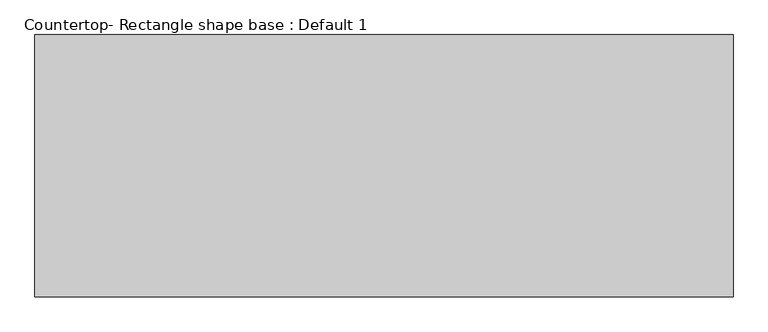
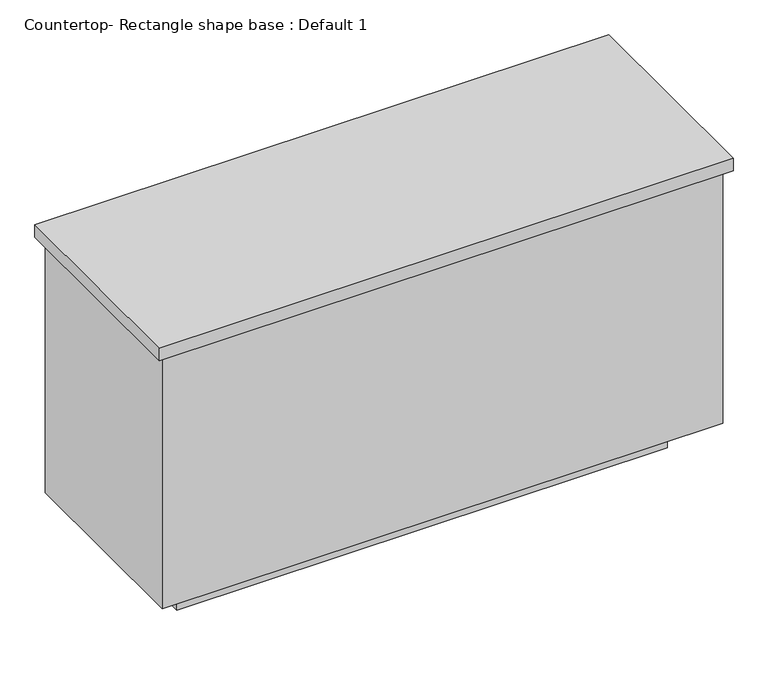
"""IFC4 building model written with IfcOpenShell, lengths in millimetres: proxy geometry, Countertop- Rectangle shape base : Default 1."""

from ifc_helpers import new_model, si_unit, frame, origin, origin_with_axes, place, context, project, spatial, polyline, outline, extrude, source, transform, mapped, element, save


def countertop_rectangle_shape_base_default_1_dabe7d19(model_context):
    return source(origin(), model_context, "Body", "SweptSolid", [
        extrude(outline(polyline([(-66.7435751, 69.85), (-66.7435751, 692.15), (1590.7435751, 692.15), (1590.7435751, 69.85), (-66.7435751, 69.85)])), frame((0.0, 0.0, 876.3), z_axis=(0.0, 0.0, 1.0), x_axis=(1.0, 0.0, 0.0)), (0.0, 0.0, 1.0), 38.1),
        extrude(outline(polyline([(1571.6935751, 673.1), (1571.6935751, 88.9), (-47.6935751, 88.9), (-47.6935751, 673.1), (1571.6935751, 673.1)])), frame((0.0, 0.0, 101.6), z_axis=(0.0, 0.0, 1.0), x_axis=(1.0, 0.0, 0.0)), (0.0, 0.0, 1.0), 774.7),
        extrude(outline(polyline([(1470.0935751, 571.5), (1470.0935751, 190.5), (53.9064249, 190.5), (53.9064249, 571.5), (1470.0935751, 571.5)])), origin_with_axes(), (0.0, 0.0, 1.0), 101.6),
    ])


if __name__ == "__main__":
    model = new_model("IFC4")
    model_context = context("Model", 3, world=origin())
    ifc_project = project(units=[si_unit("LENGTHUNIT", "METRE", prefix="MILLI")], contexts=[model_context])
    site = spatial("IfcSite", under=ifc_project)
    building = spatial("IfcBuilding", under=site)
    placement = place(None, origin())
    countertop_rectangle_shape_base_default_1_shape = countertop_rectangle_shape_base_default_1_dabe7d19(model_context)
    element("IfcBuildingElementProxy", 1, Name="Countertop- Rectangle shape base : Default 1", ObjectType="Countertop- Rectangle shape base : Default 1", at=placement, inside=building, context=model_context, shape_type="MappedRepresentation", body=[
        mapped(countertop_rectangle_shape_base_default_1_shape, transform((0.0, 0.0, 0.0), x_axis=(1.0, 0.0, 0.0), y_axis=(0.0, 1.0, 0.0), z_axis=(0.0, 0.0, 1.0))),
    ])
    save(model, "model.ifc")
